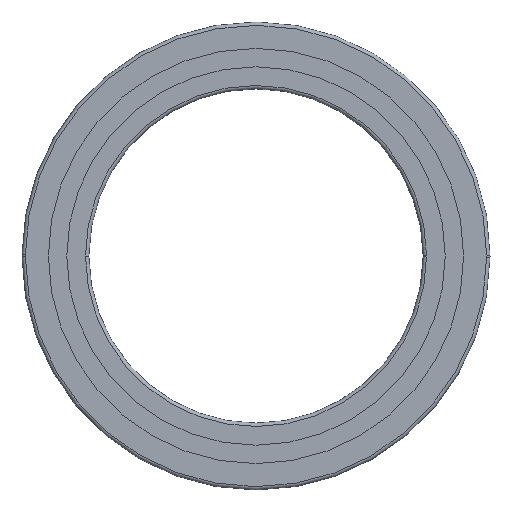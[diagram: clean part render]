
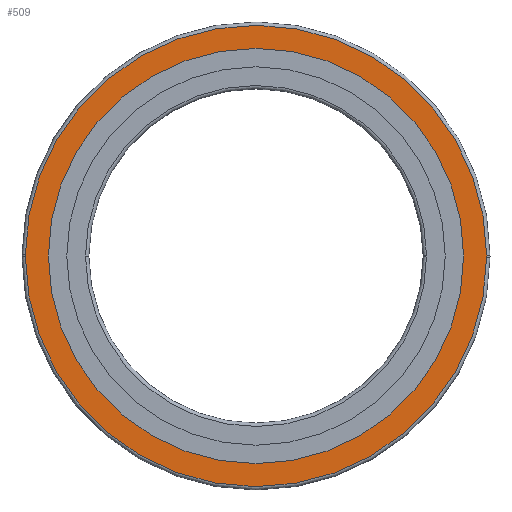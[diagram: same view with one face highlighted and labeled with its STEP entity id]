
A CAD part, front view. The second image highlights one B-rep face of the part: STEP entity #509.
In plain terms, the highlighted planar face has unit normal (0, -1, 0).
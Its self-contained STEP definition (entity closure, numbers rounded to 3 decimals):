
#435=EDGE_CURVE('',#437,#621,#996,.T.);
#437=VERTEX_POINT('',#998);
#441=EDGE_CURVE('',#621,#437,#1002,.T.);
#501=VERTEX_POINT('',#1068);
#509=ADVANCED_FACE('',(#1076,#1077),#1078,.F.);
#529=EDGE_CURVE('',#671,#817,#1102,.T.);
#621=VERTEX_POINT('',#1203);
#671=VERTEX_POINT('',#1257);
#683=EDGE_CURVE('',#785,#671,#1270,.T.);
#691=EDGE_CURVE('',#501,#785,#1278,.T.);
#721=EDGE_CURVE('',#817,#501,#1313,.T.);
#785=VERTEX_POINT('',#1384);
#817=VERTEX_POINT('',#1419);
#996=CIRCLE('',#1625,62.1);
#998=CARTESIAN_POINT('',(62.1,0.0,0.0));
#1002=CIRCLE('',#1633,62.1);
#1068=CARTESIAN_POINT('',(-69.0,0.0,0.0));
#1076=FACE_OUTER_BOUND('',#1726,.T.);
#1077=FACE_BOUND('',#1727,.T.);
#1078=PLANE('',#1728);
#1102=CIRCLE('',#1754,69.0);
#1203=CARTESIAN_POINT('',(-62.1,0.0,0.0));
#1257=CARTESIAN_POINT('',(69.0,0.0,0.0));
#1270=CIRCLE('',#1965,69.0);
#1278=CIRCLE('',#1977,69.0);
#1313=CIRCLE('',#2019,69.0);
#1384=CARTESIAN_POINT('',(68.999,0.0,-0.428));
#1419=CARTESIAN_POINT('',(-68.999,0.0,0.428));
#1625=AXIS2_PLACEMENT_3D('',#2377,#2378,#2379);
#1633=AXIS2_PLACEMENT_3D('',#2383,#2384,#2385);
#1726=EDGE_LOOP('',(#2470,#2471,#2472,#2473));
#1727=EDGE_LOOP('',(#2474,#2475));
#1728=AXIS2_PLACEMENT_3D('',#2476,#2477,#2478);
#1754=AXIS2_PLACEMENT_3D('',#2506,#2507,#2508);
#1965=AXIS2_PLACEMENT_3D('',#2732,#2733,#2734);
#1977=AXIS2_PLACEMENT_3D('',#2744,#2745,#2746);
#2019=AXIS2_PLACEMENT_3D('',#2805,#2806,#2807);
#2377=CARTESIAN_POINT('',(0.0,0.0,0.0));
#2378=DIRECTION('',(0.0,-1.0,0.0));
#2379=DIRECTION('',(1.0,0.0,0.0));
#2383=CARTESIAN_POINT('',(0.0,0.0,0.0));
#2384=DIRECTION('',(0.0,-1.0,0.0));
#2385=DIRECTION('',(-1.0,0.0,0.0));
#2470=ORIENTED_EDGE('',*,*,#529,.T.);
#2471=ORIENTED_EDGE('',*,*,#721,.T.);
#2472=ORIENTED_EDGE('',*,*,#691,.T.);
#2473=ORIENTED_EDGE('',*,*,#683,.T.);
#2474=ORIENTED_EDGE('',*,*,#441,.F.);
#2475=ORIENTED_EDGE('',*,*,#435,.F.);
#2476=CARTESIAN_POINT('',(0.0,0.0,0.0));
#2477=DIRECTION('',(0.0,1.0,0.0));
#2478=DIRECTION('',(1.0,0.0,-0.0));
#2506=CARTESIAN_POINT('',(0.0,0.0,0.0));
#2507=DIRECTION('',(0.0,-1.0,0.0));
#2508=DIRECTION('',(1.0,0.0,0.0));
#2732=CARTESIAN_POINT('',(0.0,0.0,0.0));
#2733=DIRECTION('',(0.0,-1.0,0.0));
#2734=DIRECTION('',(-1.0,0.0,0.0));
#2744=CARTESIAN_POINT('',(0.0,0.0,0.0));
#2745=DIRECTION('',(0.0,-1.0,0.0));
#2746=DIRECTION('',(-1.0,0.0,0.0));
#2805=CARTESIAN_POINT('',(0.0,0.0,0.0));
#2806=DIRECTION('',(0.0,-1.0,0.0));
#2807=DIRECTION('',(1.0,0.0,0.0));
